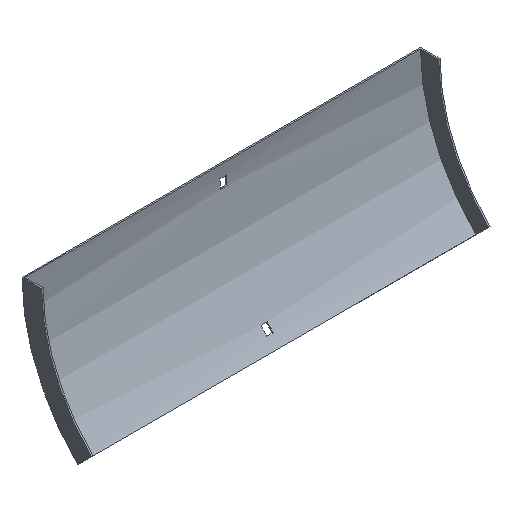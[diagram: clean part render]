
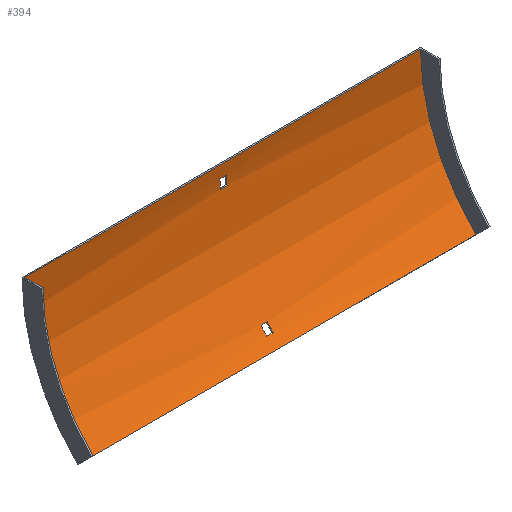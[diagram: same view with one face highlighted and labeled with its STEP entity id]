
A CAD part, isometric view. The second image highlights one B-rep face of the part: STEP entity #394.
In plain terms, the highlighted cylindrical face has radius 192.5 mm (diameter 385 mm), a partial arc.
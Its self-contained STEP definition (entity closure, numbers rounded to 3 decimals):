
#4 = DIRECTION ( 'NONE',  ( -1., 0., 0. ) ) ;
#12 = CIRCLE ( 'NONE', #255, 192.5 ) ;
#17 = VECTOR ( 'NONE', #429, 1000. ) ;
#22 = LINE ( 'NONE', #166, #334 ) ;
#26 = CIRCLE ( 'NONE', #400, 192.5 ) ;
#29 = VERTEX_POINT ( 'NONE', #39 ) ;
#35 = VERTEX_POINT ( 'NONE', #428 ) ;
#37 = ORIENTED_EDGE ( 'NONE', *, *, #457, .T. ) ;
#38 = CARTESIAN_POINT ( 'NONE',  ( -3.25, -1.874, -12. ) ) ;
#39 = CARTESIAN_POINT ( 'NONE',  ( -202., -57.882, -136.118 ) ) ;
#44 = DIRECTION ( 'NONE',  ( 1., 0., 0. ) ) ;
#47 = DIRECTION ( 'NONE',  ( 0., 0., -1. ) ) ;
#49 = EDGE_CURVE ( 'NONE', #112, #416, #12, .T. ) ;
#50 = EDGE_CURVE ( 'NONE', #591, #453, #383, .T. ) ;
#51 = LINE ( 'NONE', #478, #455 ) ;
#61 = CARTESIAN_POINT ( 'NONE',  ( 3.25, -194., 0. ) ) ;
#63 = VECTOR ( 'NONE', #142, 1000. ) ;
#76 = EDGE_CURVE ( 'NONE', #416, #473, #190, .T. ) ;
#79 = CARTESIAN_POINT ( 'NONE',  ( -202., -194., 0. ) ) ;
#80 = ORIENTED_EDGE ( 'NONE', *, *, #500, .F. ) ;
#100 = CARTESIAN_POINT ( 'NONE',  ( -3.25, -49.661, -127.368 ) ) ;
#112 = VERTEX_POINT ( 'NONE', #100 ) ;
#113 = CARTESIAN_POINT ( 'NONE',  ( -3.25, -2.649, -21. ) ) ;
#116 = VERTEX_POINT ( 'NONE', #476 ) ;
#119 = ORIENTED_EDGE ( 'NONE', *, *, #132, .T. ) ;
#121 = CIRCLE ( 'NONE', #247, 192.5 ) ;
#124 = VERTEX_POINT ( 'NONE', #563 ) ;
#125 = EDGE_CURVE ( 'NONE', #116, #35, #292, .T. ) ;
#127 = EDGE_LOOP ( 'NONE', ( #572, #537, #80, #588 ) ) ;
#132 = EDGE_CURVE ( 'NONE', #597, #116, #498, .T. ) ;
#142 = DIRECTION ( 'NONE',  ( -1., 0., 0. ) ) ;
#151 = VECTOR ( 'NONE', #44, 1000. ) ;
#153 = AXIS2_PLACEMENT_3D ( 'NONE', #360, #586, #214 ) ;
#165 = VERTEX_POINT ( 'NONE', #210 ) ;
#166 = CARTESIAN_POINT ( 'NONE',  ( 203.5, -2.649, -21. ) ) ;
#171 = AXIS2_PLACEMENT_3D ( 'NONE', #375, #552, #524 ) ;
#190 = LINE ( 'NONE', #194, #151 ) ;
#192 = DIRECTION ( 'NONE',  ( 0., 0., -1. ) ) ;
#194 = CARTESIAN_POINT ( 'NONE',  ( 203.5, -43.845, -120.456 ) ) ;
#198 = CARTESIAN_POINT ( 'NONE',  ( -3.25, -194., 0. ) ) ;
#199 = DIRECTION ( 'NONE',  ( 0., 0., 1. ) ) ;
#201 = DIRECTION ( 'NONE',  ( 0., 0., 1. ) ) ;
#210 = CARTESIAN_POINT ( 'NONE',  ( 3.25, -2.649, -21. ) ) ;
#214 = DIRECTION ( 'NONE',  ( 0., 0., 1. ) ) ;
#218 = DIRECTION ( 'NONE',  ( 1., 0., 0. ) ) ;
#221 = FACE_BOUND ( 'NONE', #348, .T. ) ;
#226 = EDGE_CURVE ( 'NONE', #453, #320, #462, .T. ) ;
#233 = DIRECTION ( 'NONE',  ( -1., 0., 0. ) ) ;
#242 = CARTESIAN_POINT ( 'NONE',  ( -3.25, -43.845, -120.456 ) ) ;
#247 = AXIS2_PLACEMENT_3D ( 'NONE', #79, #535, #414 ) ;
#251 = ORIENTED_EDGE ( 'NONE', *, *, #358, .F. ) ;
#255 = AXIS2_PLACEMENT_3D ( 'NONE', #329, #515, #192 ) ;
#259 = AXIS2_PLACEMENT_3D ( 'NONE', #61, #4, #199 ) ;
#270 = FACE_OUTER_BOUND ( 'NONE', #488, .T. ) ;
#274 = VECTOR ( 'NONE', #233, 1000. ) ;
#292 = LINE ( 'NONE', #517, #274 ) ;
#294 = EDGE_CURVE ( 'NONE', #320, #165, #22, .T. ) ;
#320 = VERTEX_POINT ( 'NONE', #113 ) ;
#329 = CARTESIAN_POINT ( 'NONE',  ( -3.25, -194., 0. ) ) ;
#330 = DIRECTION ( 'NONE',  ( 1., 0., 0. ) ) ;
#334 = VECTOR ( 'NONE', #218, 1000. ) ;
#348 = EDGE_LOOP ( 'NONE', ( #37, #442, #461, #371 ) ) ;
#358 = EDGE_CURVE ( 'NONE', #29, #35, #121, .T. ) ;
#360 = CARTESIAN_POINT ( 'NONE',  ( 203.5, -194., 0. ) ) ;
#371 = ORIENTED_EDGE ( 'NONE', *, *, #596, .T. ) ;
#375 = CARTESIAN_POINT ( 'NONE',  ( 202., -194., 0. ) ) ;
#383 = LINE ( 'NONE', #565, #63 ) ;
#390 = CARTESIAN_POINT ( 'NONE',  ( 3.25, -1.874, -12. ) ) ;
#393 = CARTESIAN_POINT ( 'NONE',  ( 202., -57.882, -136.118 ) ) ;
#394 = ADVANCED_FACE ( 'NONE', ( #584, #270, #221 ), #452, .F. ) ;
#398 = AXIS2_PLACEMENT_3D ( 'NONE', #198, #489, #201 ) ;
#400 = AXIS2_PLACEMENT_3D ( 'NONE', #520, #330, #47 ) ;
#414 = DIRECTION ( 'NONE',  ( 0., 0., 1. ) ) ;
#416 = VERTEX_POINT ( 'NONE', #242 ) ;
#428 = CARTESIAN_POINT ( 'NONE',  ( -202., -1.5, 0. ) ) ;
#429 = DIRECTION ( 'NONE',  ( -1., 0., 0. ) ) ;
#434 = CARTESIAN_POINT ( 'NONE',  ( 3.25, -43.845, -120.456 ) ) ;
#442 = ORIENTED_EDGE ( 'NONE', *, *, #49, .T. ) ;
#452 = CYLINDRICAL_SURFACE ( 'NONE', #153, 192.5 ) ;
#453 = VERTEX_POINT ( 'NONE', #38 ) ;
#455 = VECTOR ( 'NONE', #523, 1000. ) ;
#457 = EDGE_CURVE ( 'NONE', #124, #112, #602, .T. ) ;
#459 = ORIENTED_EDGE ( 'NONE', *, *, #567, .F. ) ;
#461 = ORIENTED_EDGE ( 'NONE', *, *, #76, .T. ) ;
#462 = CIRCLE ( 'NONE', #398, 192.5 ) ;
#473 = VERTEX_POINT ( 'NONE', #434 ) ;
#476 = CARTESIAN_POINT ( 'NONE',  ( 202., -1.5, 0. ) ) ;
#478 = CARTESIAN_POINT ( 'NONE',  ( 202., -57.882, -136.118 ) ) ;
#488 = EDGE_LOOP ( 'NONE', ( #251, #459, #119, #539 ) ) ;
#489 = DIRECTION ( 'NONE',  ( -1., 0., 0. ) ) ;
#498 = CIRCLE ( 'NONE', #171, 192.5 ) ;
#500 = EDGE_CURVE ( 'NONE', #165, #591, #26, .T. ) ;
#511 = CIRCLE ( 'NONE', #259, 192.5 ) ;
#515 = DIRECTION ( 'NONE',  ( 1., 0., 0. ) ) ;
#517 = CARTESIAN_POINT ( 'NONE',  ( 202., -1.5, 0. ) ) ;
#520 = CARTESIAN_POINT ( 'NONE',  ( 3.25, -194., 0. ) ) ;
#523 = DIRECTION ( 'NONE',  ( -1., 0., 0. ) ) ;
#524 = DIRECTION ( 'NONE',  ( 0., 0., 1. ) ) ;
#535 = DIRECTION ( 'NONE',  ( 1., 0., 0. ) ) ;
#537 = ORIENTED_EDGE ( 'NONE', *, *, #50, .F. ) ;
#539 = ORIENTED_EDGE ( 'NONE', *, *, #125, .T. ) ;
#552 = DIRECTION ( 'NONE',  ( 1., 0., 0. ) ) ;
#563 = CARTESIAN_POINT ( 'NONE',  ( 3.25, -49.661, -127.368 ) ) ;
#565 = CARTESIAN_POINT ( 'NONE',  ( 203.5, -1.874, -12. ) ) ;
#567 = EDGE_CURVE ( 'NONE', #597, #29, #51, .T. ) ;
#572 = ORIENTED_EDGE ( 'NONE', *, *, #226, .F. ) ;
#584 = FACE_BOUND ( 'NONE', #127, .T. ) ;
#586 = DIRECTION ( 'NONE',  ( -1., 0., 0. ) ) ;
#588 = ORIENTED_EDGE ( 'NONE', *, *, #294, .F. ) ;
#591 = VERTEX_POINT ( 'NONE', #390 ) ;
#596 = EDGE_CURVE ( 'NONE', #473, #124, #511, .T. ) ;
#597 = VERTEX_POINT ( 'NONE', #393 ) ;
#602 = LINE ( 'NONE', #606, #17 ) ;
#606 = CARTESIAN_POINT ( 'NONE',  ( 203.5, -49.661, -127.368 ) ) ;
